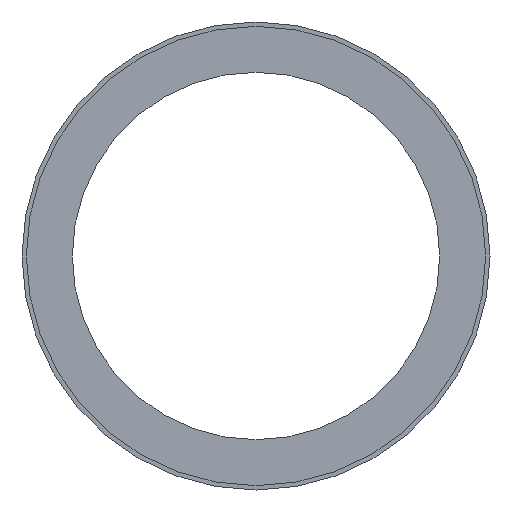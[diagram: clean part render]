
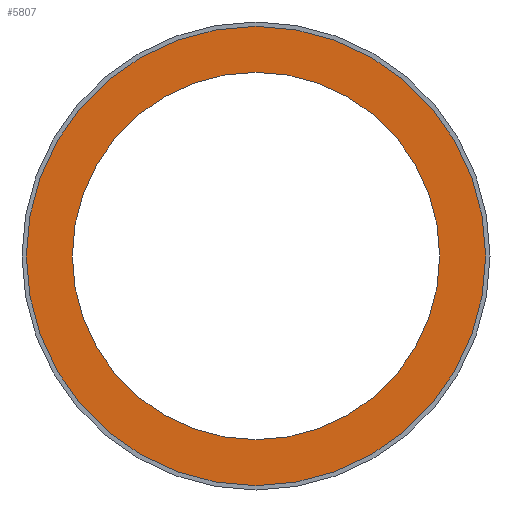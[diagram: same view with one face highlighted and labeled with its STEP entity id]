
A CAD part, front view. The second image highlights one B-rep face of the part: STEP entity #5807.
In plain terms, the highlighted planar face has unit normal (0, -1, 0).
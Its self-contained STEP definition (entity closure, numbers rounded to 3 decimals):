
#78 = AXIS2_PLACEMENT_3D ( 'NONE', #9017, #4839, #6250 ) ;
#94 = PLANE ( 'NONE',  #3523 ) ;
#130 = CARTESIAN_POINT ( 'NONE',  ( 0., -58., 190. ) ) ;
#136 = ORIENTED_EDGE ( 'NONE', *, *, #8156, .F. ) ;
#388 = AXIS2_PLACEMENT_3D ( 'NONE', #1542, #8520, #1609 ) ;
#506 = VERTEX_POINT ( 'NONE', #7336 ) ;
#873 = AXIS2_PLACEMENT_3D ( 'NONE', #3120, #2439, #6020 ) ;
#1542 = CARTESIAN_POINT ( 'NONE',  ( 0., -58., 0. ) ) ;
#1609 = DIRECTION ( 'NONE',  ( 0., 0., -1. ) ) ;
#1872 = VERTEX_POINT ( 'NONE', #8516 ) ;
#1972 = DIRECTION ( 'NONE',  ( 0., 0., -1. ) ) ;
#2330 = ORIENTED_EDGE ( 'NONE', *, *, #6318, .F. ) ;
#2334 = CIRCLE ( 'NONE', #78, 237.5 ) ;
#2395 = VERTEX_POINT ( 'NONE', #2842 ) ;
#2439 = DIRECTION ( 'NONE',  ( 0., -1., 0. ) ) ;
#2842 = CARTESIAN_POINT ( 'NONE',  ( 0., -58., -237.5 ) ) ;
#2885 = EDGE_CURVE ( 'NONE', #2395, #5917, #2334, .T. ) ;
#3120 = CARTESIAN_POINT ( 'NONE',  ( 0., -58., 0. ) ) ;
#3304 = CIRCLE ( 'NONE', #388, 237.5 ) ;
#3387 = DIRECTION ( 'NONE',  ( 0., -1., 0. ) ) ;
#3523 = AXIS2_PLACEMENT_3D ( 'NONE', #130, #8415, #5615 ) ;
#3566 = CIRCLE ( 'NONE', #5547, 190. ) ;
#3847 = ORIENTED_EDGE ( 'NONE', *, *, #2885, .T. ) ;
#3958 = CIRCLE ( 'NONE', #873, 190. ) ;
#4839 = DIRECTION ( 'NONE',  ( 0., -1., 0. ) ) ;
#5547 = AXIS2_PLACEMENT_3D ( 'NONE', #6144, #3387, #1972 ) ;
#5615 = DIRECTION ( 'NONE',  ( 0., 0., 1. ) ) ;
#5768 = CARTESIAN_POINT ( 'NONE',  ( 0., -58., 237.5 ) ) ;
#5807 = ADVANCED_FACE ( 'NONE', ( #9024, #8603 ), #94, .F. ) ;
#5869 = EDGE_LOOP ( 'NONE', ( #136, #2330 ) ) ;
#5917 = VERTEX_POINT ( 'NONE', #5768 ) ;
#6020 = DIRECTION ( 'NONE',  ( 0., 0., -1. ) ) ;
#6144 = CARTESIAN_POINT ( 'NONE',  ( 0., -58., 0. ) ) ;
#6250 = DIRECTION ( 'NONE',  ( 0., 0., -1. ) ) ;
#6318 = EDGE_CURVE ( 'NONE', #506, #1872, #3566, .T. ) ;
#6615 = ORIENTED_EDGE ( 'NONE', *, *, #8072, .T. ) ;
#7130 = EDGE_LOOP ( 'NONE', ( #3847, #6615 ) ) ;
#7336 = CARTESIAN_POINT ( 'NONE',  ( 0., -58., 190. ) ) ;
#8072 = EDGE_CURVE ( 'NONE', #5917, #2395, #3304, .T. ) ;
#8156 = EDGE_CURVE ( 'NONE', #1872, #506, #3958, .T. ) ;
#8415 = DIRECTION ( 'NONE',  ( 0., 1., 0. ) ) ;
#8516 = CARTESIAN_POINT ( 'NONE',  ( 0., -58., -190. ) ) ;
#8520 = DIRECTION ( 'NONE',  ( 0., -1., 0. ) ) ;
#8603 = FACE_OUTER_BOUND ( 'NONE', #7130, .T. ) ;
#9017 = CARTESIAN_POINT ( 'NONE',  ( 0., -58., 0. ) ) ;
#9024 = FACE_BOUND ( 'NONE', #5869, .T. ) ;
